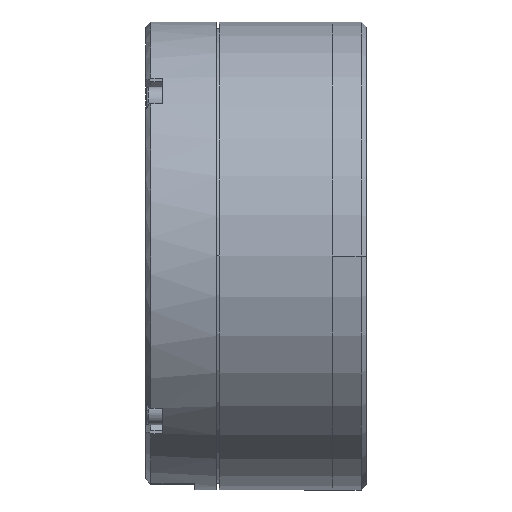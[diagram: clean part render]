
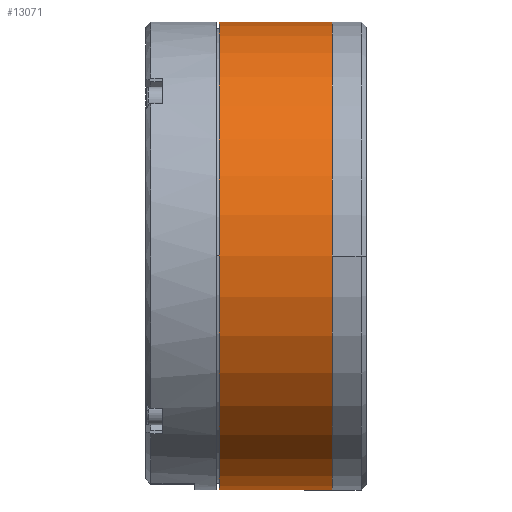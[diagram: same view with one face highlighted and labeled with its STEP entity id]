
A CAD part, front view. The second image highlights one B-rep face of the part: STEP entity #13071.
In plain terms, the highlighted cylindrical face has radius 44.5 mm (diameter 89 mm), a partial arc.
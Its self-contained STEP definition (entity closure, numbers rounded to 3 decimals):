
#130 = CARTESIAN_POINT ( 'NONE',  ( -6.5, 0., -44.5 ) ) ;
#184 = ORIENTED_EDGE ( 'NONE', *, *, #7286, .T. ) ;
#1033 = EDGE_LOOP ( 'NONE', ( #5149, #7995, #3817, #184 ) ) ;
#1202 = DIRECTION ( 'NONE',  ( 1., 0., 0. ) ) ;
#1419 = VERTEX_POINT ( 'NONE', #130 ) ;
#1938 = CYLINDRICAL_SURFACE ( 'NONE', #9035, 44.5 ) ;
#2106 = CARTESIAN_POINT ( 'NONE',  ( -6.5, 0., 0. ) ) ;
#2417 = VECTOR ( 'NONE', #10663, 1000. ) ;
#3817 = ORIENTED_EDGE ( 'NONE', *, *, #9099, .T. ) ;
#4173 = AXIS2_PLACEMENT_3D ( 'NONE', #2106, #7860, #13417 ) ;
#4374 = VECTOR ( 'NONE', #11647, 1000. ) ;
#4580 = EDGE_CURVE ( 'NONE', #1419, #7303, #11960, .T. ) ;
#5133 = DIRECTION ( 'NONE',  ( -1., 0., 0. ) ) ;
#5149 = ORIENTED_EDGE ( 'NONE', *, *, #13107, .F. ) ;
#5653 = DIRECTION ( 'NONE',  ( 0., 0., 1. ) ) ;
#5901 = CARTESIAN_POINT ( 'NONE',  ( -6.5, 0., 44.5 ) ) ;
#6285 = CIRCLE ( 'NONE', #12636, 44.5 ) ;
#6642 = CARTESIAN_POINT ( 'NONE',  ( -28., 0., 44.5 ) ) ;
#7286 = EDGE_CURVE ( 'NONE', #11734, #13418, #6285, .T. ) ;
#7303 = VERTEX_POINT ( 'NONE', #8812 ) ;
#7860 = DIRECTION ( 'NONE',  ( -1., 0., 0. ) ) ;
#7995 = ORIENTED_EDGE ( 'NONE', *, *, #4580, .T. ) ;
#8444 = FACE_OUTER_BOUND ( 'NONE', #1033, .T. ) ;
#8513 = LINE ( 'NONE', #10971, #2417 ) ;
#8590 = CARTESIAN_POINT ( 'NONE',  ( -6.5, 0., 0. ) ) ;
#8812 = CARTESIAN_POINT ( 'NONE',  ( -6.5, 0., 44.5 ) ) ;
#9035 = AXIS2_PLACEMENT_3D ( 'NONE', #8590, #5133, #13180 ) ;
#9099 = EDGE_CURVE ( 'NONE', #7303, #11734, #13789, .T. ) ;
#10663 = DIRECTION ( 'NONE',  ( -1., 0., 0. ) ) ;
#10971 = CARTESIAN_POINT ( 'NONE',  ( -6.5, 0., -44.5 ) ) ;
#11332 = CARTESIAN_POINT ( 'NONE',  ( -28., 0., 0. ) ) ;
#11647 = DIRECTION ( 'NONE',  ( -1., 0., 0. ) ) ;
#11734 = VERTEX_POINT ( 'NONE', #6642 ) ;
#11960 = CIRCLE ( 'NONE', #4173, 44.5 ) ;
#12636 = AXIS2_PLACEMENT_3D ( 'NONE', #11332, #1202, #5653 ) ;
#13071 = ADVANCED_FACE ( 'NONE', ( #8444 ), #1938, .T. ) ;
#13107 = EDGE_CURVE ( 'NONE', #1419, #13418, #8513, .T. ) ;
#13180 = DIRECTION ( 'NONE',  ( 0., 0., 1. ) ) ;
#13417 = DIRECTION ( 'NONE',  ( 0., 0., 1. ) ) ;
#13418 = VERTEX_POINT ( 'NONE', #14168 ) ;
#13789 = LINE ( 'NONE', #5901, #4374 ) ;
#14168 = CARTESIAN_POINT ( 'NONE',  ( -28., 0., -44.5 ) ) ;
